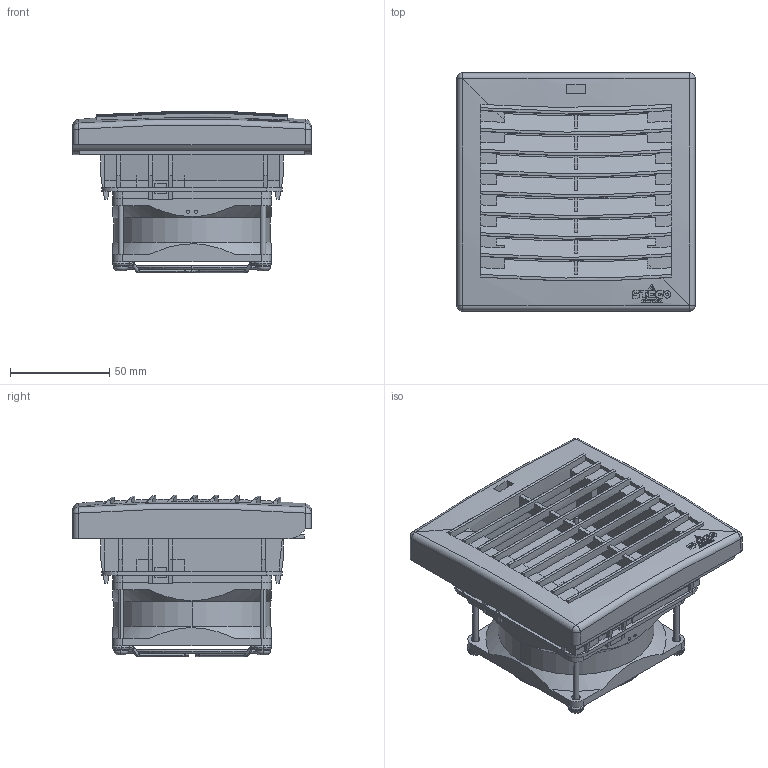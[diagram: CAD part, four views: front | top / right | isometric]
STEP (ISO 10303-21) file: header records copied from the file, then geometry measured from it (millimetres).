
FILE_DESCRIPTION (( 'STEP AP214' ), '1' );
FILE_NAME ('FPI_018_DC_92x92_EPLAN_10_2015.STEP', '2015-10-16T10:55:26', ( 'Admin' ), ( 'Hewlett-Packard Company' ), 'SwSTEP 2.0', 'SolidWorks 2015', '' );
FILE_SCHEMA (( 'AUTOMOTIVE_DESIGN' ));
Length unit declared in the file: millimetre
Products named in the file (1): FPI_018_DC_92x92_EPLAN_10_2015
Bounding box: 120 x 120 x 81.44 mm (x, y, z)
Surface area: 116014.6 mm2 (no closed solid volume)
Topology: 0 solids, 23 shells, 773 faces, 2718 edges, 1881 vertices
Faces by surface type: plane 357, cylinder 209, torus 94, sphere 60, bspline 41, cone 12
Entity records: 41545 total; most frequent: CARTESIAN_POINT 10244, DIRECTION 4653, ORIENTED_EDGE 4646, EDGE_CURVE 2713, VERTEX_POINT 1881, AXIS2_PLACEMENT_3D 1694, VECTOR 1265, LINE 1265
